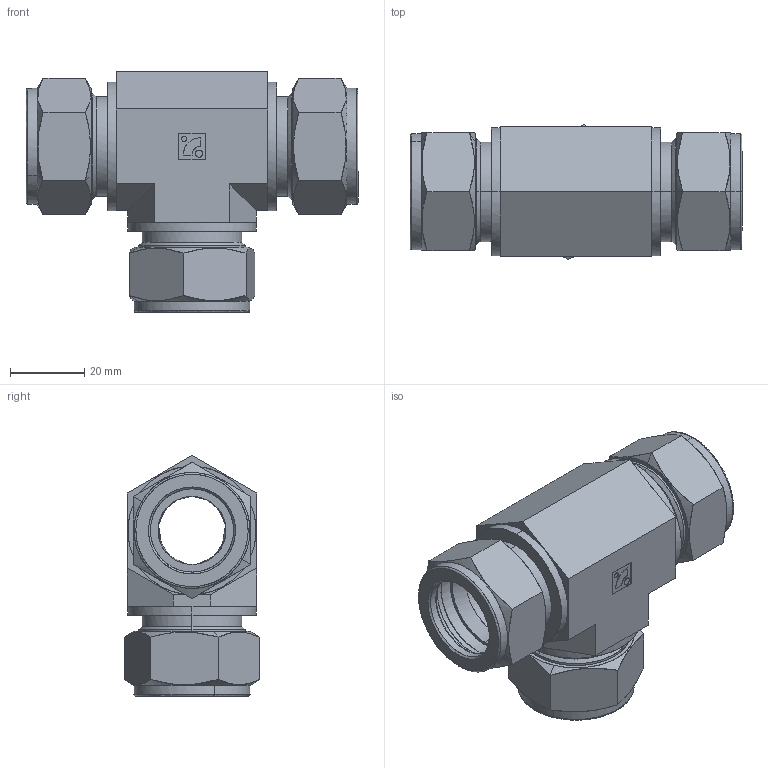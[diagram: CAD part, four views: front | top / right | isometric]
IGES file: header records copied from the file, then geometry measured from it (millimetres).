
Start section: Comment
Global section: file name: SUT-14.igs; native system:  By UGS Corp.; preprocessor: XPlus GENERIC/IGES 3.0; author: Author; organization: Title; date: 20100114.132252; units: millimetre
Bounding box: 89.28 x 36.29 x 64.79 mm (x, y, z)
Surface area: 28883.1 mm2 (no closed solid volume)
Topology: 0 solids, 0 shells, 208 faces, 900 edges, 898 vertices
Faces by surface type: bspline 208
